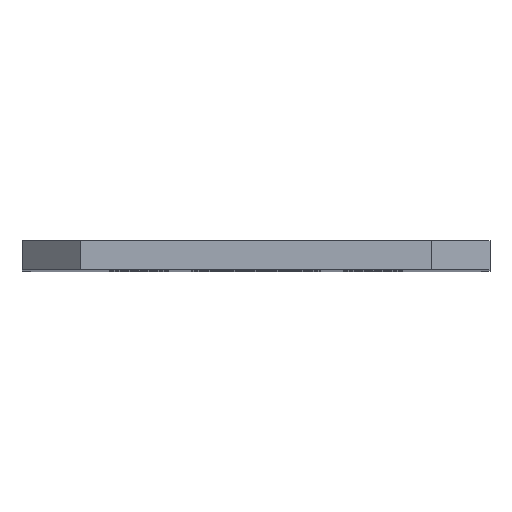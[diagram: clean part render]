
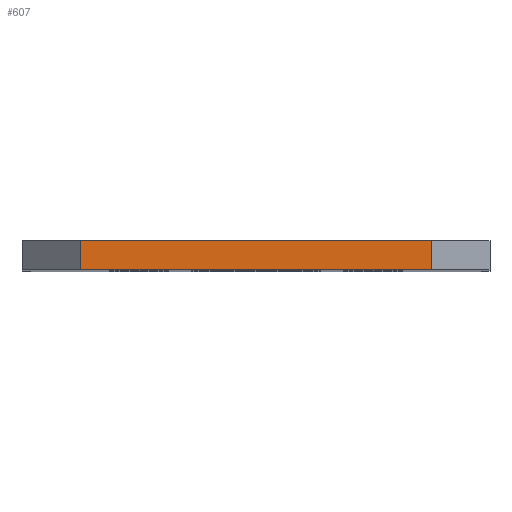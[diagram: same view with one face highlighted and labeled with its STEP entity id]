
A CAD part, top view. The second image highlights one B-rep face of the part: STEP entity #607.
In plain terms, the highlighted planar face has unit normal (0, 0, 1).
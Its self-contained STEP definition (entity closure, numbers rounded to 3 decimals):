
#52 = DIRECTION ( 'NONE',  ( 1., 0., 0. ) ) ;
#78 = EDGE_CURVE ( 'NONE', #241, #789, #186, .T. ) ;
#149 = LINE ( 'NONE', #673, #588 ) ;
#153 = EDGE_CURVE ( 'NONE', #834, #815, #149, .T. ) ;
#186 = LINE ( 'NONE', #813, #1074 ) ;
#231 = CARTESIAN_POINT ( 'NONE',  ( 5., 0., 0. ) ) ;
#241 = VERTEX_POINT ( 'NONE', #231 ) ;
#250 = AXIS2_PLACEMENT_3D ( 'NONE', #841, #313, #1000 ) ;
#272 = CARTESIAN_POINT ( 'NONE',  ( 35., 2.5, 0. ) ) ;
#313 = DIRECTION ( 'NONE',  ( 0., 0., -1. ) ) ;
#319 = PLANE ( 'NONE',  #250 ) ;
#343 = EDGE_CURVE ( 'NONE', #834, #241, #386, .T. ) ;
#370 = ORIENTED_EDGE ( 'NONE', *, *, #553, .F. ) ;
#386 = LINE ( 'NONE', #392, #1052 ) ;
#392 = CARTESIAN_POINT ( 'NONE',  ( 5., 2.5, 0. ) ) ;
#461 = ORIENTED_EDGE ( 'NONE', *, *, #78, .T. ) ;
#489 = CARTESIAN_POINT ( 'NONE',  ( 35., 2.5, 0. ) ) ;
#530 = CARTESIAN_POINT ( 'NONE',  ( 5., 2.5, 0. ) ) ;
#553 = EDGE_CURVE ( 'NONE', #815, #789, #764, .T. ) ;
#573 = EDGE_LOOP ( 'NONE', ( #461, #370, #930, #600 ) ) ;
#588 = VECTOR ( 'NONE', #936, 1000. ) ;
#600 = ORIENTED_EDGE ( 'NONE', *, *, #343, .T. ) ;
#607 = ADVANCED_FACE ( 'NONE', ( #899 ), #319, .F. ) ;
#615 = CARTESIAN_POINT ( 'NONE',  ( 35., 0., 0. ) ) ;
#673 = CARTESIAN_POINT ( 'NONE',  ( 5., 2.5, 0. ) ) ;
#739 = DIRECTION ( 'NONE',  ( 0., -1., 0. ) ) ;
#742 = DIRECTION ( 'NONE',  ( 0., -1., 0. ) ) ;
#764 = LINE ( 'NONE', #489, #1048 ) ;
#789 = VERTEX_POINT ( 'NONE', #615 ) ;
#813 = CARTESIAN_POINT ( 'NONE',  ( 5., 0., 0. ) ) ;
#815 = VERTEX_POINT ( 'NONE', #272 ) ;
#834 = VERTEX_POINT ( 'NONE', #530 ) ;
#841 = CARTESIAN_POINT ( 'NONE',  ( 5., 2.5, 0. ) ) ;
#899 = FACE_OUTER_BOUND ( 'NONE', #573, .T. ) ;
#930 = ORIENTED_EDGE ( 'NONE', *, *, #153, .F. ) ;
#936 = DIRECTION ( 'NONE',  ( 1., 0., 0. ) ) ;
#1000 = DIRECTION ( 'NONE',  ( -1., 0., 0. ) ) ;
#1048 = VECTOR ( 'NONE', #739, 1000. ) ;
#1052 = VECTOR ( 'NONE', #742, 1000. ) ;
#1074 = VECTOR ( 'NONE', #52, 1000. ) ;
